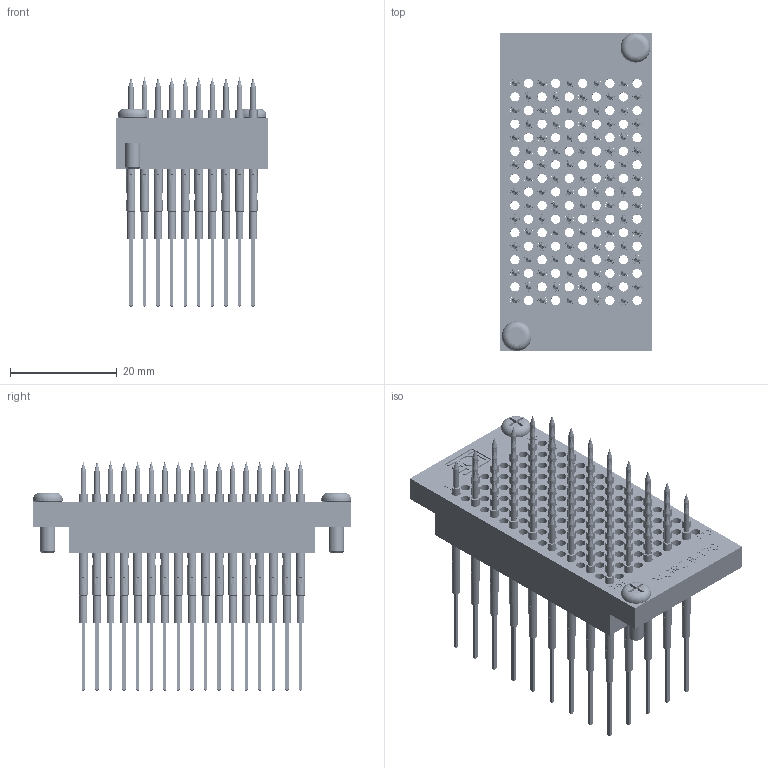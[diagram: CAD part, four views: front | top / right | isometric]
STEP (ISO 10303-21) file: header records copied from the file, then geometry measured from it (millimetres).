
FILE_DESCRIPTION (( 'STEP AP203' ), '1' );
FILE_NAME ('820491_AB.STEP', '2016-08-22T18:00:45', ( '' ), ( '' ), 'SwSTEP 2.0', 'SolidWorks 2014', '' );
FILE_SCHEMA (( 'CONFIG_CONTROL_DESIGN' ));
Length unit declared in the file: millimetre
Products named in the file (5): 10783b1B-Model; SPR-2W-2; EPA-2B40; PAN PHILIP SCREW (INCHES)_#4-40 UNC X 0.375" (VG); 820491_AB
Assembly tree (173 placements, depth 2):
  820491_AB
    10783b1B-Model
    SPR-2W-2  x85
    EPA-2B40  x85
    PAN PHILIP SCREW (INCHES)_#4-40 UNC X 0.375" (VG)  x2
Bounding box: 28.32 x 59.56 x 42.93 mm (x, y, z)
Volume: 15335.1 mm3; surface area: 43283.5 mm2
Topology: 173 solids, 173 shells, 6656 faces, 15902 edges, 10059 vertices
Faces by surface type: plane 3135, cylinder 1884, bspline 945, cone 684, torus 8
Entity records: 37289 total; most frequent: CARTESIAN_POINT 11919, DIRECTION 4204, ORIENTED_EDGE 4104, EDGE_CURVE 2052, AXIS2_PLACEMENT_3D 1580, VERTEX_POINT 1361, EDGE_LOOP 1139, LINE 1044
